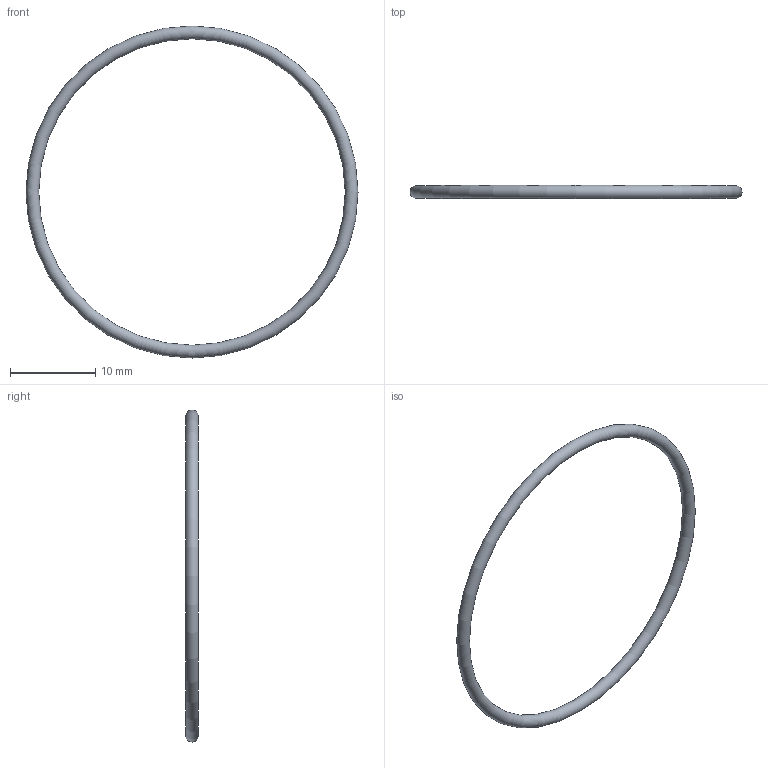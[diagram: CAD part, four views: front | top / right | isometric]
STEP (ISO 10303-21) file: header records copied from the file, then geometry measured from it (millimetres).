
FILE_DESCRIPTION( ( 'STEP AP203' ), '1' );
FILE_NAME( 'C:/Temp/Ganter_Step_05_03_2020/data/3_5/or638/O-Ring OR638-36.00-1.50-70.stp', '2020-03-12T13:44:19', ( 'License CC BY-ND 4.0' ), ( 'CADENAS' ), ' ', 'PARTsolutions', ' ' );
FILE_SCHEMA( ( 'CONFIG_CONTROL_DESIGN' ) );
Length unit declared in the file: millimetre
Products named in the file (1): _O-Ring OR638-36.00-1.50-70
Bounding box: 39 x 1.5 x 39 mm (x, y, z)
Volume: 208.2 mm3; surface area: 555.2 mm2
Topology: 1 solids, 1 shells, 1 faces, 2 edges, 1 vertices
Faces by surface type: torus 1
Entity records: 62 total; most frequent: CC_DESIGN_PERSON_AND_ORGANIZATION_ASSIGNMENT 5, PERSON_AND_ORGANIZATION_ROLE 4, DIRECTION 4, CARTESIAN_POINT 3, DATE_TIME_ROLE 2, CC_DESIGN_DATE_AND_TIME_ASSIGNMENT 2, AXIS2_PLACEMENT_3D 2, DIMENSIONAL_EXPONENTS 2
